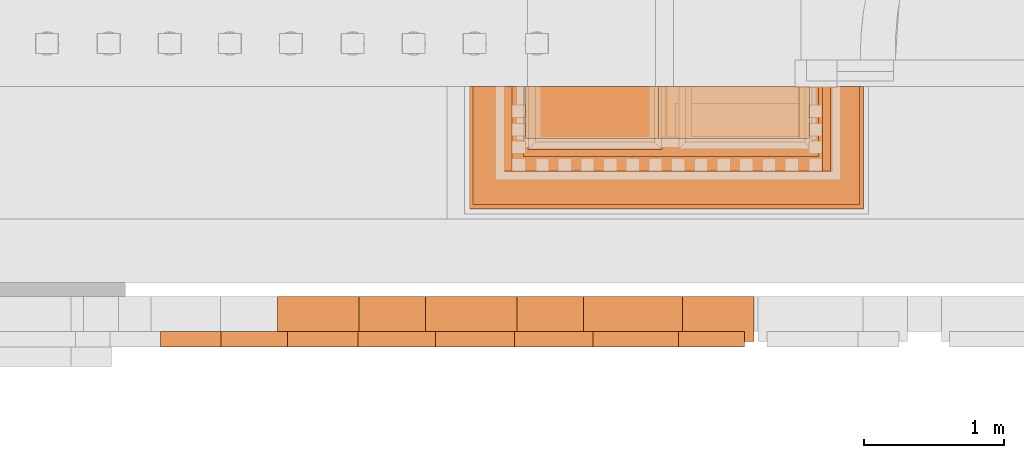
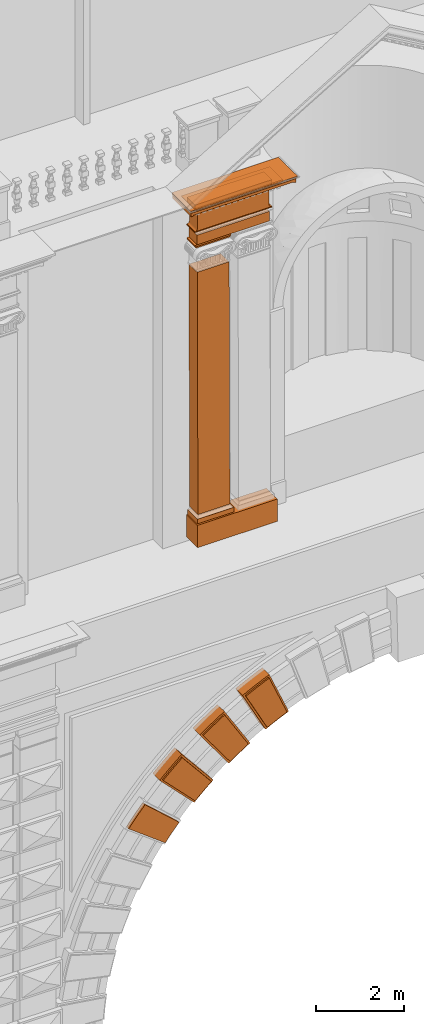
# One storey, part 6 of 44: 21 proxies.
"""IFC2X3 building model written with IfcOpenShell, lengths in metres."""

from ifc_helpers import new_model, entity, si_unit, converted_unit, derived_unit, direction, frame, frame_2d, origin, place, context, subcontext, project, spatial, polyline, circle_curve, parameter, trimmed, segment, composite_curve, rectangle, outline, extrude, material, element, save


model = new_model("IFC2X3")

# Units and contexts
model_context = context("Model", 3, precision=1e-05, world=origin(), true_north=direction((6.12303176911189e-17, 1.0)))
body_context = subcontext(model_context, "Body", "Model", "MODEL_VIEW")
ifc_project = project(units=[si_unit("LENGTHUNIT", "METRE"), si_unit("AREAUNIT", "SQUARE_METRE"), si_unit("VOLUMEUNIT", "CUBIC_METRE"), converted_unit("PLANEANGLEUNIT", "DEGREE", entity("IfcRatioMeasure", 0.0174532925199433), si_unit("PLANEANGLEUNIT", "RADIAN"), dimensions=[0, 0, 0, 0, 0, 0, 0]), si_unit("MASSUNIT", "GRAM", prefix="KILO"), derived_unit("MASSDENSITYUNIT", [(si_unit("MASSUNIT", "GRAM", prefix="KILO"), 1), (si_unit("LENGTHUNIT", "METRE"), -3)]), si_unit("TIMEUNIT", "SECOND"), si_unit("FREQUENCYUNIT", "HERTZ"), si_unit("THERMODYNAMICTEMPERATUREUNIT", "DEGREE_CELSIUS"), derived_unit("THERMALTRANSMITTANCEUNIT", [(si_unit("MASSUNIT", "GRAM", prefix="KILO"), 1), (si_unit("THERMODYNAMICTEMPERATUREUNIT", "KELVIN"), -1), (si_unit("TIMEUNIT", "SECOND"), -3)]), derived_unit("VOLUMETRICFLOWRATEUNIT", [(si_unit("LENGTHUNIT", "METRE"), 3), (si_unit("TIMEUNIT", "SECOND"), -1)]), si_unit("ELECTRICCURRENTUNIT", "AMPERE"), si_unit("ELECTRICVOLTAGEUNIT", "VOLT"), si_unit("POWERUNIT", "WATT"), si_unit("FORCEUNIT", "NEWTON", prefix="KILO"), si_unit("ILLUMINANCEUNIT", "LUX"), si_unit("LUMINOUSFLUXUNIT", "LUMEN"), si_unit("LUMINOUSINTENSITYUNIT", "CANDELA"), derived_unit("USERDEFINED", [(si_unit("MASSUNIT", "GRAM", prefix="KILO"), -1), (si_unit("LENGTHUNIT", "METRE"), -2), (si_unit("TIMEUNIT", "SECOND"), 3), (si_unit("LUMINOUSFLUXUNIT", "LUMEN"), 1)]), derived_unit("LINEARVELOCITYUNIT", [(si_unit("LENGTHUNIT", "METRE"), 1), (si_unit("TIMEUNIT", "SECOND"), -1)]), si_unit("PRESSUREUNIT", "PASCAL"), derived_unit("USERDEFINED", [(si_unit("LENGTHUNIT", "METRE"), -2), (si_unit("MASSUNIT", "GRAM", prefix="KILO"), 1), (si_unit("TIMEUNIT", "SECOND"), -2)])], contexts=[model_context])

# Site, building, storey
site_placement = place(None, origin())
site = spatial("IfcSite", under=ifc_project, at=site_placement, Name="Default", CompositionType="ELEMENT")
building_placement = place(site_placement, origin())
building = spatial("IfcBuilding", under=site, at=building_placement, CompositionType="ELEMENT")
storey_placement = place(building_placement, origin())
storey = spatial("IfcBuildingStorey", under=building, at=storey_placement, Name="Livello 1", CompositionType="ELEMENT", Elevation=0.0)

# Proxies
ifc_material_1 = material(Name="Piperno")
proxy_1_placement = place(storey_placement, frame((-5.59187858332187, -0.554467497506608, 8.12137108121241)))
element("IfcBuildingElementProxy", 1, at=proxy_1_placement, inside=storey, material=ifc_material_1, Name="Stratigrafia", context=body_context, shape_type="SweptSolid", body=[
    extrude(outline(composite_curve([segment(polyline([(-0.667284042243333, -0.362933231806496), (0.636902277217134, -0.362933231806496)]), True, "CONTINUOUS"), segment(trimmed(circle_curve(frame_2d((8.67102557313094, -0.36293323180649), x_axis=(-0.112852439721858, 0.993611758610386)), 8.03412329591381), [parameter(78.726697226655)], [parameter(83.5202274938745)], True, "PARAMETER"), False, "CONTINUOUS"), segment(polyline([(0.665003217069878, 0.308440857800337), (-0.634621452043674, 0.417425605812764)]), True, "CONTINUOUS"), segment(trimmed(circle_curve(frame_2d((8.67102557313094, -0.36293323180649), x_axis=(-0.112852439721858, 0.993611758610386)), 9.33830961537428), [parameter(78.7266972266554)], [parameter(83.5202274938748)], True, "PARAMETER"), True, "CONTINUOUS")], self_intersect=False)), frame((0.687813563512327, 0.0, 0.730092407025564), z_axis=(0.0, 1.0, 0.0), x_axis=(0.519118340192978, 0.0, -0.854702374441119)), (0.0, 0.0, 1.0), 0.32),
])
proxy_2_placement = place(storey_placement, frame((-5.52202858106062, -0.594467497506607, 8.19109902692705)))
element("IfcBuildingElementProxy", 2, at=proxy_2_placement, inside=storey, material=ifc_material_1, Name="Stratigrafia", context=body_context, shape_type="SweptSolid", body=[
    extrude(outline(composite_curve([segment(trimmed(circle_curve(frame_2d((8.66960657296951, 0.362020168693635), x_axis=(-0.112852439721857, -0.993611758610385)), 9.28496378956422), [parameter(276.782159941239)], [parameter(280.96038991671)], True, "PARAMETER"), True, "CONTINUOUS"), segment(polyline([(-0.586980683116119, -0.363338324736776), (0.613152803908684, -0.262696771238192)]), True, "CONTINUOUS"), segment(trimmed(circle_curve(frame_2d((8.67302445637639, 0.363017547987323), x_axis=(-0.112852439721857, -0.993611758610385)), 8.08412329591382), [parameter(276.834147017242)], [parameter(280.918928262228)], True, "PARAMETER"), False, "CONTINUOUS"), segment(polyline([(0.589055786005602, 0.313017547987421), (-0.615227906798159, 0.313017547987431)]), True, "CONTINUOUS")], self_intersect=False)), frame((0.616853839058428, 0.0, 0.662029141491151), z_axis=(0.0, -1.0, 0.0), x_axis=(0.519118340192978, 0.0, -0.854702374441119)), (0.0, 0.0, -1.0), 0.11),
])
proxy_3_placement = place(storey_placement, frame((-7.48288693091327, -0.594467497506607, 6.52980767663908)))
element("IfcBuildingElementProxy", 3, at=proxy_3_placement, inside=storey, material=ifc_material_1, Name="Stratigrafia", context=body_context, shape_type="SweptSolid", body=[
    extrude(outline(composite_curve([segment(trimmed(circle_curve(frame_2d((8.66960657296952, 0.362020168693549), x_axis=(-0.112852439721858, -0.993611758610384)), 9.28496378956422), [parameter(276.782159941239)], [parameter(280.96038991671)], True, "PARAMETER"), True, "CONTINUOUS"), segment(polyline([(-0.586980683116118, -0.363338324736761), (0.613152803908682, -0.262696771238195)]), True, "CONTINUOUS"), segment(trimmed(circle_curve(frame_2d((8.6730244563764, 0.363017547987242), x_axis=(-0.112852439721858, -0.993611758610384)), 8.08412329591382), [parameter(276.834147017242)], [parameter(280.918928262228)], True, "PARAMETER"), False, "CONTINUOUS"), segment(polyline([(0.589055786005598, 0.313017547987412), (-0.615227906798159, 0.313017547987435)]), True, "CONTINUOUS")], self_intersect=False)), frame((0.681246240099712, 0.0, 0.606362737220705), z_axis=(0.0, -1.0, 0.0), x_axis=(0.744891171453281, 0.0, -0.667185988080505)), (0.0, 0.0, -1.0), 0.11),
])
proxy_4_placement = place(storey_placement, frame((-4.46562073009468, -0.554467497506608, 8.73122797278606)))
element("IfcBuildingElementProxy", 4, at=proxy_4_placement, inside=storey, material=ifc_material_1, Name="Stratigrafia", context=body_context, shape_type="SweptSolid", body=[
    extrude(outline(composite_curve([segment(polyline([(-0.667284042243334, -0.362933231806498), (0.636902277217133, -0.362933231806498)]), True, "CONTINUOUS"), segment(trimmed(circle_curve(frame_2d((8.67102557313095, -0.3629332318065), x_axis=(-0.112852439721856, 0.993611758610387)), 8.03412329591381), [parameter(78.726697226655)], [parameter(83.5202274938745)], True, "PARAMETER"), False, "CONTINUOUS"), segment(polyline([(0.665003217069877, 0.308440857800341), (-0.634621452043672, 0.417425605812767)]), True, "CONTINUOUS"), segment(trimmed(circle_curve(frame_2d((8.67102557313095, -0.3629332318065), x_axis=(-0.112852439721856, 0.993611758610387)), 9.33830961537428), [parameter(78.7266972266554)], [parameter(83.5202274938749)], True, "PARAMETER"), True, "CONTINUOUS")], self_intersect=False)), frame((0.633587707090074, 0.0, 0.734238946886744), z_axis=(0.0, 1.0, 0.0), x_axis=(0.390258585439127, 0.0, -0.920705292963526)), (0.0, 0.0, 1.0), 0.32),
])
proxy_5_placement = place(storey_placement, frame((-4.398087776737, -0.594467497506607, 8.79862642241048)))
element("IfcBuildingElementProxy", 5, at=proxy_5_placement, inside=storey, material=ifc_material_1, Name="Stratigrafia", context=body_context, shape_type="SweptSolid", body=[
    extrude(outline(composite_curve([segment(trimmed(circle_curve(frame_2d((8.66960657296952, 0.362020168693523), x_axis=(-0.112852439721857, -0.993611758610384)), 9.28496378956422), [parameter(276.782159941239)], [parameter(280.96038991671)], True, "PARAMETER"), True, "CONTINUOUS"), segment(polyline([(-0.586980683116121, -0.363338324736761), (0.613152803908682, -0.262696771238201)]), True, "CONTINUOUS"), segment(trimmed(circle_curve(frame_2d((8.6730244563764, 0.363017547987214), x_axis=(-0.112852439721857, -0.993611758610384)), 8.08412329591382), [parameter(276.834147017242)], [parameter(280.918928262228)], True, "PARAMETER"), False, "CONTINUOUS"), segment(polyline([(0.5890557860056, 0.313017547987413), (-0.615227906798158, 0.31301754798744)]), True, "CONTINUOUS")], self_intersect=False)), frame((0.565197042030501, 0.0, 0.668647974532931), z_axis=(0.0, -1.0, 0.0), x_axis=(0.390258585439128, 0.0, -0.920705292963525)), (0.0, 0.0, -1.0), 0.11),
])
proxy_6_placement = place(storey_placement, frame((-6.64702126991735, -0.554467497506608, 7.35228536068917)))
element("IfcBuildingElementProxy", 6, at=proxy_6_placement, inside=storey, material=ifc_material_1, Name="Stratigrafia", context=body_context, shape_type="SweptSolid", body=[
    extrude(outline(composite_curve([segment(polyline([(-0.667284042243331, -0.362933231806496), (0.636902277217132, -0.362933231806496)]), True, "CONTINUOUS"), segment(trimmed(circle_curve(frame_2d((8.67102557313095, -0.36293323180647), x_axis=(-0.112852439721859, 0.993611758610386)), 8.03412329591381), [parameter(78.7266972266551)], [parameter(83.5202274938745)], True, "PARAMETER"), False, "CONTINUOUS"), segment(polyline([(0.665003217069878, 0.308440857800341), (-0.634621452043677, 0.417425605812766)]), True, "CONTINUOUS"), segment(trimmed(circle_curve(frame_2d((8.67102557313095, -0.36293323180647), x_axis=(-0.112852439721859, 0.993611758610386)), 9.33830961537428), [parameter(78.7266972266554)], [parameter(83.5202274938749)], True, "PARAMETER"), True, "CONTINUOUS")], self_intersect=False)), frame((0.727503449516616, 0.0, 0.71080198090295), z_axis=(0.0, 1.0, 0.0), x_axis=(0.636572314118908, 0.0, -0.771217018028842)), (0.0, 0.0, 1.0), 0.32),
])
proxy_7_placement = place(storey_placement, frame((-6.57631890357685, -0.594467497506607, 7.42288060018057)))
element("IfcBuildingElementProxy", 7, at=proxy_7_placement, inside=storey, material=ifc_material_1, Name="Stratigrafia", context=body_context, shape_type="SweptSolid", body=[
    extrude(outline(composite_curve([segment(trimmed(circle_curve(frame_2d((8.66960657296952, 0.362020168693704), x_axis=(-0.112852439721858, -0.993611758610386)), 9.28496378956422), [parameter(276.782159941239)], [parameter(280.96038991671)], True, "PARAMETER"), True, "CONTINUOUS"), segment(polyline([(-0.58698068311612, -0.363338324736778), (0.61315280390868, -0.262696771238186)]), True, "CONTINUOUS"), segment(trimmed(circle_curve(frame_2d((8.6730244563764, 0.363017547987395), x_axis=(-0.112852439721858, -0.993611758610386)), 8.08412329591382), [parameter(276.834147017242)], [parameter(280.918928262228)], True, "PARAMETER"), False, "CONTINUOUS"), segment(polyline([(0.589055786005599, 0.313017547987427), (-0.615227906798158, 0.313017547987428)]), True, "CONTINUOUS")], self_intersect=False)), frame((0.655463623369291, 0.0, 0.641694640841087), z_axis=(0.0, -1.0, 0.0), x_axis=(0.636572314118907, 0.0, -0.771217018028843)), (0.0, 0.0, -1.0), 0.11),
])
proxy_8_placement = place(storey_placement, frame((-4.8916790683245, 0.763372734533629, 13.3457681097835)))
element("IfcBuildingElementProxy", 8, at=proxy_8_placement, inside=storey, material=ifc_material_1, Name="Stratigrafia", context=body_context, shape_type="SweptSolid", body=[
    extrude(rectangle(XDim=0.620950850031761, YDim=0.5, at=frame_2d((0.0, 0.0), x_axis=(0.0, 1.0))), frame((0.0, 0.25, 0.310475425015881), z_axis=(1.0, 0.0, 0.0), x_axis=(0.0, 1.0, 0.0)), (0.0, 0.0, 1.0), 2.1056955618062),
])
proxy_9_placement = place(storey_placement, frame((-4.85996697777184, 0.813372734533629, 13.9667189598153)))
element("IfcBuildingElementProxy", 9, at=proxy_9_placement, inside=storey, material=ifc_material_1, Name="Stratigrafia", context=body_context, shape_type="SweptSolid", body=[
    extrude(rectangle(XDim=0.129364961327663, YDim=0.45, at=frame_2d((0.0, 0.0), x_axis=(0.0, 1.0))), frame((0.0, 0.225, 0.0646824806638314), z_axis=(1.0, 0.0, 0.0), x_axis=(0.0, 1.0, 0.0)), (0.0, 0.0, 1.0), 0.956412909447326),
])
proxy_10_placement = place(storey_placement, frame((-4.82408702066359, 0.883372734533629, 14.1670132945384)))
element("IfcBuildingElementProxy", 10, at=proxy_10_placement, inside=storey, material=ifc_material_1, Name="Stratigrafia", context=body_context, shape_type="SweptSolid", body=[
    extrude(rectangle(XDim=6.74573124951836, YDim=0.38, at=frame_2d((1.2490009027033e-16, 0.0), x_axis=(0.0, 1.0))), frame((0.00875481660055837, 0.19, 3.37285426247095), z_axis=(0.999996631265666, 0.0, 0.00259566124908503), x_axis=(0.0, 1.0, 0.0)), (0.0, -0.00259566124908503, 0.999996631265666), 0.838920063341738),
])
proxy_11_placement = place(storey_placement, frame((-4.87865904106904, 0.893372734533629, 21.5874052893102)))
element("IfcBuildingElementProxy", 11, at=proxy_11_placement, inside=storey, Name="Stratigrafia", context=body_context, shape_type="SweptSolid", body=[
    extrude(outline(polyline([(-0.444158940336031, -0.0175491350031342), (0.448323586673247, -0.0175491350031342), (0.472017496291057, 0.0175491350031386), (-0.476182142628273, 0.0175491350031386), (-0.444158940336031, -0.0175491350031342)])), frame((0.472017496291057, 0.0, 0.0175491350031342), z_axis=(0.0, 1.0, 0.0), x_axis=(-1.0, 0.0, 0.0)), (0.0, 0.0, 1.0), 0.37),
])
proxy_12_placement = place(storey_placement, frame((-4.87865904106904, 0.893372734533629, 21.6225035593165)))
element("IfcBuildingElementProxy", 12, at=proxy_12_placement, inside=storey, Name="Stratigrafia", context=body_context, shape_type="SweptSolid", body=[
    extrude(rectangle(XDim=0.0459747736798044, YDim=0.37, at=frame_2d((-6.93889390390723e-17, 0.0), x_axis=(0.0, 1.0))), frame((0.0, 0.185, 0.0229873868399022), z_axis=(1.0, 0.0, 0.0), x_axis=(0.0, 1.0, 0.0)), (0.0, 0.0, 1.0), 0.948246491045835),
])
proxy_13_placement = place(storey_placement, frame((-4.82230213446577, 0.893372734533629, 21.6684783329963)))
element("IfcBuildingElementProxy", 13, at=proxy_13_placement, inside=storey, material=ifc_material_1, Name="Stratigrafia", context=body_context, shape_type="SweptSolid", body=[
    extrude(rectangle(XDim=0.26847379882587, YDim=0.37, at=frame_2d((-6.93889390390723e-17, -2.16493489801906e-15), x_axis=(0.0, 1.0))), frame((0.0, 0.185, 0.134236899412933), z_axis=(1.0, 0.0, 0.0), x_axis=(0.0, 1.0, 0.0)), (0.0, 0.0, 1.0), 1.90592544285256),
])
ifc_material_2 = material(Name="Travertino")
proxy_14_placement = place(storey_placement, frame((-4.87299353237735, 0.893372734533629, 22.0480384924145)))
element("IfcBuildingElementProxy", 14, at=proxy_14_placement, inside=storey, material=ifc_material_2, Name="Stratigrafia", context=body_context, shape_type="SweptSolid", body=[
    extrude(outline(composite_curve([segment(polyline([(-0.331614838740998, 0.941141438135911), (-0.331614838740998, -0.94754680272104)]), True, "CONTINUOUS"), segment(polyline([(-0.331614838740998, -0.94754680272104), (0.131686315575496, -0.94754680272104)]), True, "CONTINUOUS"), segment(trimmed(circle_curve(frame_2d((0.13591131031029, -1.00733902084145), x_axis=(0.997512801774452, -0.0704855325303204)), 0.059941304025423), [parameter(8.0837501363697)], [parameter(98.0837501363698)], True, "PARAMETER"), False, "CONTINUOUS"), segment(polyline([(0.195703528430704, -1.00311402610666), (0.195703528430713, 1.01592475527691)]), True, "CONTINUOUS"), segment(trimmed(circle_curve(frame_2d((0.110522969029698, 1.02118149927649), x_axis=(0.998101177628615, -0.06159577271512)), 0.0853426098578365), [parameter(293.834950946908)], [parameter(9.40426408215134e-11)], True, "PARAMETER"), False, "CONTINUOUS"), segment(polyline([(0.140136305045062, 0.941141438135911), (-0.331614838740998, 0.941141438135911)]), True, "CONTINUOUS")], self_intersect=False)), frame((1.00470929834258, 0.0, 0.197298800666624), z_axis=(0.0, -1.0, 0.0), x_axis=(0.0, 0.0, -1.0)), (0.0, 0.0, -1.0), 0.37),
])
proxy_15_placement = place(storey_placement, frame((-4.88734824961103, 0.893372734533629, 22.0266454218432)))
element("IfcBuildingElementProxy", 15, at=proxy_15_placement, inside=storey, material=ifc_material_1, Name="Stratigrafia", context=body_context, shape_type="SweptSolid", body=[
    extrude(rectangle(XDim=0.0229883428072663, YDim=0.37, at=frame_2d((-6.93889390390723e-17, 0.0), x_axis=(0.0, 1.0))), frame((0.0, 0.185, 0.0114941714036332), z_axis=(1.0, 0.0, 0.0), x_axis=(0.0, 1.0, 0.0)), (0.0, 0.0, 1.0), 2.03498877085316),
])
proxy_16_placement = place(storey_placement, frame((-5.27569084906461, 0.390957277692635, 23.0063153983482)))
element("IfcBuildingElementProxy", 16, at=proxy_16_placement, inside=storey, material=ifc_material_1, Name="Stratigrafia", context=body_context, shape_type="SweptSolid", body=[
    extrude(rectangle(XDim=0.0363925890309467, YDim=0.872415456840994, at=frame_2d((0.0, 0.0), x_axis=(0.0, 1.0))), frame((0.0, 0.436207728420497, 0.0181962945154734), z_axis=(1.0, 0.0, 0.0), x_axis=(0.0, 1.0, 0.0)), (0.0, 0.0, 1.0), 2.80857274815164),
])
proxy_17_placement = place(storey_placement, frame((-5.25115053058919, 0.423372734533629, 22.8805538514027)))
element("IfcBuildingElementProxy", 17, at=proxy_17_placement, inside=storey, material=ifc_material_1, Name="Stratigrafia", context=body_context, shape_type="SweptSolid", body=[
    extrude(outline(composite_curve([segment(polyline([(-1.37464440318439, -0.0958582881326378), (1.38110087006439, -0.0958582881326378)]), True, "CONTINUOUS"), segment(polyline([(1.38110087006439, -0.0958582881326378), (1.38110087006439, 0.0283079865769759)]), True, "CONTINUOUS"), segment(polyline([(1.38110087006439, 0.0283079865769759), (1.3399566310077, 0.028307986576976)]), True, "CONTINUOUS"), segment(trimmed(circle_curve(frame_2d((1.40168375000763, -0.130507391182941), x_axis=(-0.434562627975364, 0.900641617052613)), 0.170389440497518), [parameter(355.482252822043)], [parameter(9.6688862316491e-12)], True, "PARAMETER"), True, "CONTINUOUS"), segment(trimmed(circle_curve(frame_2d((1.36418086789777, -0.0568755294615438), x_axis=(-0.665091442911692, 0.746761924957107)), 0.0877941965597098), [parameter(342.907043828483)], [parameter(359.999999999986)], True, "PARAMETER"), True, "CONTINUOUS"), segment(trimmed(circle_curve(frame_2d((1.33490071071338, -0.0221742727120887), x_axis=(-0.774172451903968, 0.63297473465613)), 0.0424240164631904), [parameter(352.599342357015)], [parameter(359.999999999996)], True, "PARAMETER"), True, "CONTINUOUS"), segment(polyline([(1.30205720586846, 0.00467905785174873), (-1.30619283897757, 0.00470999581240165)]), True, "CONTINUOUS"), segment(trimmed(circle_curve(frame_2d((-1.33387887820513, -0.0106768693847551), x_axis=(0.676146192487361, 0.736767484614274)), 0.0316744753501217), [parameter(341.606890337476)], [parameter(359.999999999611)], True, "PARAMETER"), True, "CONTINUOUS"), segment(trimmed(circle_curve(frame_2d((-1.36485015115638, -0.0461607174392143), x_axis=(0.41621296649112, 0.909267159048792)), 0.0787676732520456), [parameter(342.906245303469)], [parameter(359.999999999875)], True, "PARAMETER"), True, "CONTINUOUS"), segment(trimmed(circle_curve(frame_2d((-1.39381712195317, -0.102032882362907), x_axis=(0.397147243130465, 0.917754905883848)), 0.141660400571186), [parameter(357.556786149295)], [parameter(1.52666624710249e-13)], True, "PARAMETER"), True, "CONTINUOUS"), segment(polyline([(-1.33755708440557, 0.02797664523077), (-1.37472148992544, 0.0279766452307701)]), True, "CONTINUOUS"), segment(polyline([(-1.37472148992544, 0.0279766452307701), (-1.37464440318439, -0.0958582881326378)]), True, "CONTINUOUS")], self_intersect=False)), frame((1.37472148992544, 0.0, 0.0299032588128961), z_axis=(0.0, 1.0, 0.0), x_axis=(1.0, 0.0, 0.0)), (0.0, 0.0, 1.0), 0.84),
])
proxy_18_placement = place(storey_placement, frame((-5.03130330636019, 0.661139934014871, 22.8155235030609)))
element("IfcBuildingElementProxy", 18, at=proxy_18_placement, inside=storey, material=ifc_material_1, Name="Stratigrafia", context=body_context, shape_type="SweptSolid", body=[
    extrude(outline(composite_curve([segment(trimmed(circle_curve(frame_2d((1.0753705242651, 0.16538884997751), x_axis=(1.0, 0.0)), 0.0768787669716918), [parameter(292.775176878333)], [parameter(4.73266536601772e-12)], True, "PARAMETER"), True, "CONTINUOUS"), segment(polyline([(1.15224929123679, 0.165388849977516), (-1.15968712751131, -0.100785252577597)]), True, "CONTINUOUS"), segment(trimmed(circle_curve(frame_2d((-1.08481975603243, -0.0833146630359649), x_axis=(-0.973836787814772, -0.227248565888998)), 0.0768787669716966), [parameter(359.999999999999)], [parameter(67.2248231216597)], True, "PARAMETER"), True, "CONTINUOUS"), segment(polyline([(-1.09769370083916, -0.159107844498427), (1.10513153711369, 0.0945042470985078)]), True, "CONTINUOUS")], self_intersect=False)), frame((1.16519944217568, 0.0, 0.0341104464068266), z_axis=(0.0, 1.0, 0.0), x_axis=(-0.993437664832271, 0.0, -0.114374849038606)), (0.0, 0.0, 1.0), 0.602232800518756),
])
proxy_19_placement = place(storey_placement, frame((-4.97423004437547, 0.661139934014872, 22.7925608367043)))
element("IfcBuildingElementProxy", 19, at=proxy_19_placement, inside=storey, material=ifc_material_1, Name="Stratigrafia", context=body_context, shape_type="SweptSolid", body=[
    extrude(rectangle(XDim=0.0245579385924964, YDim=0.602232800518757, at=frame_2d((5.55111512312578e-17, -2.16580225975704e-15), x_axis=(0.0, 1.0))), frame((0.0, 0.301116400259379, 0.0122789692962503), z_axis=(1.0, 0.0, 0.0), x_axis=(0.0, 1.0, 0.0)), (0.0, 0.0, 1.0), 2.21681438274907),
])
proxy_20_placement = place(storey_placement, frame((-4.87904806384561, 0.893372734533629, 22.6666454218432)))
element("IfcBuildingElementProxy", 20, at=proxy_20_placement, inside=storey, material=ifc_material_1, Name="Stratigrafia", context=body_context, shape_type="SweptSolid", body=[
    extrude(rectangle(XDim=0.125915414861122, YDim=0.369999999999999, at=frame_2d((-6.93889390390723e-17, -2.17187379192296e-15), x_axis=(0.0, 1.0))), frame((0.0, 0.185, 0.0629577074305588), z_axis=(1.0, 0.0, 0.0), x_axis=(0.0, 1.0, 0.0)), (0.0, 0.0, 1.0), 2.02771748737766),
])
proxy_21_placement = place(storey_placement, frame((-5.27569084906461, 0.391034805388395, 23.0427079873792)))
element("IfcBuildingElementProxy", 21, at=proxy_21_placement, inside=storey, material=ifc_material_1, Name="Stratigrafia", context=body_context, shape_type="SweptSolid", body=[
    extrude(rectangle(XDim=0.0172851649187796, YDim=0.872337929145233, at=frame_2d((5.55111512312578e-17, 2.16580225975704e-15), x_axis=(0.0, 1.0))), frame((0.0, 0.436168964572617, 0.00864258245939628), z_axis=(1.0, 0.0, 0.0), x_axis=(0.0, -1.0, 0.0)), (0.0, 0.0, 1.0), 2.80849522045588),
])

save(model, "model.ifc")
